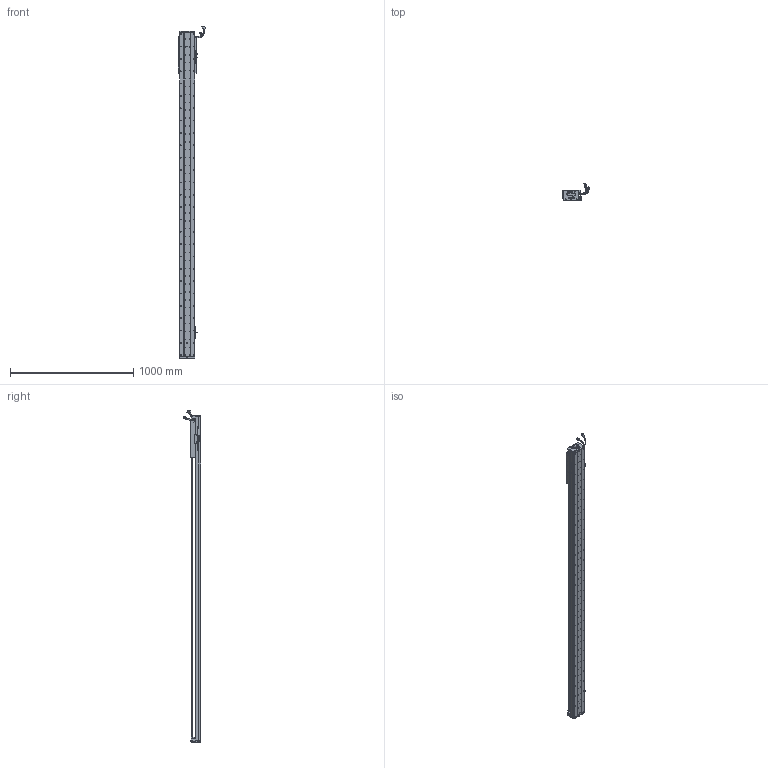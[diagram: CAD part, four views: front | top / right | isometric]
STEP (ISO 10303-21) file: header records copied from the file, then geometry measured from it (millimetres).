
FILE_DESCRIPTION (( 'STEP AP203' ), '1' );
FILE_NAME ('Z4-RY120D-1-L500-B-K.SLDASM_2250.step', '2021-05-17T06:09:53', ( '盈信电脑' ), ( '东莞市道滘镇水果街19号' ), 'SwSTEP 2.0', 'SolidWorks 2016', '' );
FILE_SCHEMA (( 'CONFIG_CONTROL_DESIGN' ));
Length unit declared in the file: millimetre
Products named in the file (37): SEAL-Part-1; SCREW-M1.6-2; Z4-RY120-L500詩湍100mm遵_2250; PBU_SHEET; COVER-Part-1; LABEL; HOLDER0; 672嫖萇羲壽假蚾釱; COVER; 榋妏寠巭燃_暯_M2_2; Z-RY120D詩湍奻揤裔; SEAL; SCREW-M1.6; SHIELDPLATE; Z-120詩湍傷裔啣; Z4-RY120D-1-L500-B-K.SLDASM_2250; SCREW-M1.7; 140蚥薯蝶輸; 覜茼ん672; SCALE; PSLH080_PSLF2; RY100FB-遵嫖萇覜茼え; HARNESS; SCREW-M1.7-1; 080黍杅芛假蚾釱21遴; HARNESS-Part-2; 120-Z-臏賑輸盄裔(21遴); SCALE-Part-1; Z4-RY120-500-倰第菁釱_2250; Z-RY120D詩湍狟揤裔; LABEL-Part-1; 140雄赽晤鎢ん堤盄; SCREW-M1.6-3; Z4-RY120铝滑块（21款）; HARNESS-Part-1; SCALE-Part-2; SCREW-M1.6-1
Assembly tree (43 placements, depth 4):
  Z4-RY120D-1-L500-B-K.SLDASM_2250
    Z4-RY120-500-倰第菁釱_2250
    覜茼ん672  x3
    672嫖萇羲壽假蚾釱  x2
    Z4-RY120铝滑块（21款）
    PSLH080_PSLF2
      SCALE
        SCALE-Part-1
        SCALE-Part-2
      HARNESS
        HARNESS-Part-1
        HARNESS-Part-2
      LABEL
        LABEL-Part-1
      COVER
        COVER-Part-1
      SEAL
        SEAL-Part-1
      榋妏寠巭燃_暯_M2_2
      SHIELDPLATE
      SCREW-M1.7
      SCREW-M1.7-1
      PBU_SHEET
      SCREW-M1.6
      SCREW-M1.6-1
      SCREW-M1.6-2
      SCREW-M1.6-3
      HOLDER0
    080黍杅芛假蚾釱21遴
    120-Z-臏賑輸盄裔(21遴)
    140雄赽晤鎢ん堤盄
    140蚥薯蝶輸  x2
    RY100FB-遵嫖萇覜茼え
    Z-120詩湍傷裔啣  x2
    Z-RY120D詩湍奻揤裔  x2
    Z-RY120D詩湍狟揤裔  x2
    Z4-RY120-L500詩湍100mm遵_2250
Bounding box: 222.83 x 140.94 x 2688.99 mm (x, y, z)
Volume: 6482274.5 mm3; surface area: 2233560.9 mm2
Topology: 38 solids, 38 shells, 3741 faces, 10670 edges, 6734 vertices
Faces by surface type: cylinder 1976, plane 1257, cone 386, torus 69, bspline 53
Entity records: 126029 total; most frequent: CARTESIAN_POINT 38730, ORIENTED_EDGE 18092, DIRECTION 16550, EDGE_CURVE 9046, AXIS2_PLACEMENT_3D 6124, VERTEX_POINT 5854, LINE 4302, VECTOR 4302
